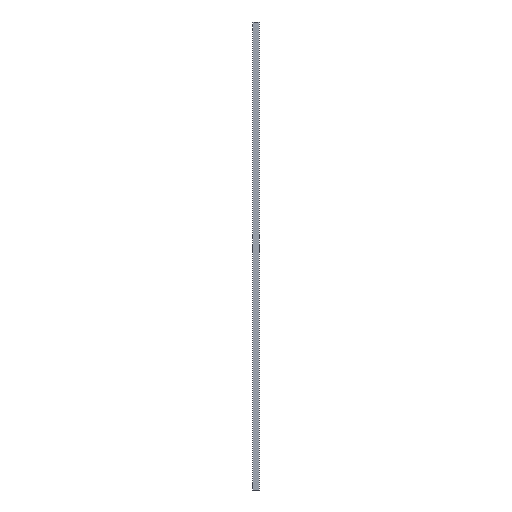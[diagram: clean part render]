
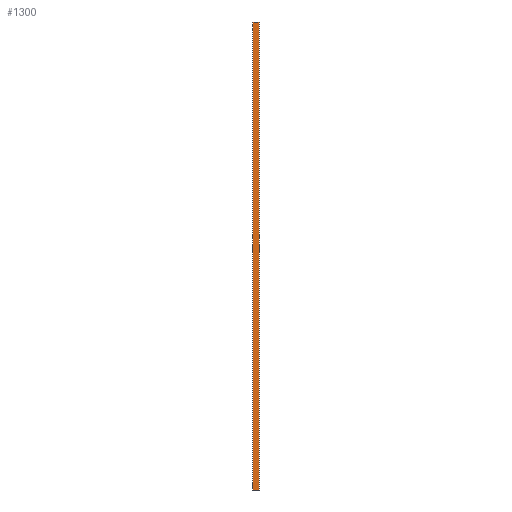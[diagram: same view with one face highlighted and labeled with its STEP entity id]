
A CAD part, left-side view. The second image highlights one B-rep face of the part: STEP entity #1300.
In plain terms, the highlighted planar face has unit normal (-1, 0, 0).
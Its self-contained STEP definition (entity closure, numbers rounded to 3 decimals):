
#45 = ORIENTED_EDGE ( 'NONE', *, *, #320, .T. ) ;
#46 = CARTESIAN_POINT ( 'NONE',  ( -8., 0., 0. ) ) ;
#53 = DIRECTION ( 'NONE',  ( 0., 1., 0. ) ) ;
#57 = FACE_OUTER_BOUND ( 'NONE', #1376, .T. ) ;
#82 = VECTOR ( 'NONE', #53, 1000. ) ;
#88 = CARTESIAN_POINT ( 'NONE',  ( -8., 9.3, 879. ) ) ;
#104 = CARTESIAN_POINT ( 'NONE',  ( -8., 0., 879. ) ) ;
#138 = EDGE_CURVE ( 'NONE', #380, #523, #413, .T. ) ;
#184 = EDGE_CURVE ( 'NONE', #825, #551, #501, .T. ) ;
#189 = VERTEX_POINT ( 'NONE', #719 ) ;
#195 = AXIS2_PLACEMENT_3D ( 'NONE', #1249, #494, #392 ) ;
#231 = CARTESIAN_POINT ( 'NONE',  ( -8., 0., 879. ) ) ;
#235 = CARTESIAN_POINT ( 'NONE',  ( -8., 12.5, 879. ) ) ;
#278 = VERTEX_POINT ( 'NONE', #231 ) ;
#290 = DIRECTION ( 'NONE',  ( 0., -1., 0. ) ) ;
#305 = ORIENTED_EDGE ( 'NONE', *, *, #184, .T. ) ;
#320 = EDGE_CURVE ( 'NONE', #1298, #979, #1196, .T. ) ;
#344 = EDGE_CURVE ( 'NONE', #523, #979, #910, .T. ) ;
#345 = LINE ( 'NONE', #1225, #729 ) ;
#380 = VERTEX_POINT ( 'NONE', #812 ) ;
#392 = DIRECTION ( 'NONE',  ( 0., 0., 1. ) ) ;
#400 = DIRECTION ( 'NONE',  ( 0., 1., 0. ) ) ;
#413 = LINE ( 'NONE', #518, #921 ) ;
#426 = LINE ( 'NONE', #1302, #1218 ) ;
#434 = ORIENTED_EDGE ( 'NONE', *, *, #1072, .F. ) ;
#459 = VECTOR ( 'NONE', #712, 1000. ) ;
#494 = DIRECTION ( 'NONE',  ( -1., 0., 0. ) ) ;
#501 = LINE ( 'NONE', #104, #1056 ) ;
#518 = CARTESIAN_POINT ( 'NONE',  ( -8., 0., 0. ) ) ;
#523 = VERTEX_POINT ( 'NONE', #1068 ) ;
#551 = VERTEX_POINT ( 'NONE', #88 ) ;
#575 = CARTESIAN_POINT ( 'NONE',  ( -8., 0., 879. ) ) ;
#675 = CARTESIAN_POINT ( 'NONE',  ( -8., 0., 0. ) ) ;
#712 = DIRECTION ( 'NONE',  ( 0., 0., -1. ) ) ;
#719 = CARTESIAN_POINT ( 'NONE',  ( -8., 0., 0. ) ) ;
#729 = VECTOR ( 'NONE', #1096, 1000. ) ;
#761 = EDGE_CURVE ( 'NONE', #551, #1298, #345, .T. ) ;
#811 = ORIENTED_EDGE ( 'NONE', *, *, #835, .T. ) ;
#812 = CARTESIAN_POINT ( 'NONE',  ( -8., 3.2, 0. ) ) ;
#825 = VERTEX_POINT ( 'NONE', #1257 ) ;
#828 = LINE ( 'NONE', #46, #916 ) ;
#835 = EDGE_CURVE ( 'NONE', #380, #189, #828, .T. ) ;
#840 = EDGE_CURVE ( 'NONE', #278, #189, #1014, .T. ) ;
#844 = PLANE ( 'NONE',  #195 ) ;
#881 = DIRECTION ( 'NONE',  ( 0., 0., -1. ) ) ;
#898 = CARTESIAN_POINT ( 'NONE',  ( -8., 12.5, 0. ) ) ;
#910 = LINE ( 'NONE', #675, #82 ) ;
#916 = VECTOR ( 'NONE', #290, 1000. ) ;
#921 = VECTOR ( 'NONE', #1391, 1000. ) ;
#979 = VERTEX_POINT ( 'NONE', #898 ) ;
#1014 = LINE ( 'NONE', #575, #459 ) ;
#1022 = ORIENTED_EDGE ( 'NONE', *, *, #138, .F. ) ;
#1056 = VECTOR ( 'NONE', #400, 1000. ) ;
#1068 = CARTESIAN_POINT ( 'NONE',  ( -8., 9.3, 0. ) ) ;
#1072 = EDGE_CURVE ( 'NONE', #825, #278, #426, .T. ) ;
#1078 = DIRECTION ( 'NONE',  ( 0., -1., 0. ) ) ;
#1096 = DIRECTION ( 'NONE',  ( 0., 1., 0. ) ) ;
#1123 = ORIENTED_EDGE ( 'NONE', *, *, #344, .F. ) ;
#1132 = ORIENTED_EDGE ( 'NONE', *, *, #840, .F. ) ;
#1158 = CARTESIAN_POINT ( 'NONE',  ( -8., 12.5, 879. ) ) ;
#1196 = LINE ( 'NONE', #235, #1201 ) ;
#1201 = VECTOR ( 'NONE', #881, 1000. ) ;
#1218 = VECTOR ( 'NONE', #1078, 1000. ) ;
#1225 = CARTESIAN_POINT ( 'NONE',  ( -8., 12.5, 879. ) ) ;
#1249 = CARTESIAN_POINT ( 'NONE',  ( -8., 0., 879. ) ) ;
#1257 = CARTESIAN_POINT ( 'NONE',  ( -8., 3.2, 879. ) ) ;
#1268 = ORIENTED_EDGE ( 'NONE', *, *, #761, .T. ) ;
#1298 = VERTEX_POINT ( 'NONE', #1158 ) ;
#1300 = ADVANCED_FACE ( 'NONE', ( #57 ), #844, .T. ) ;
#1302 = CARTESIAN_POINT ( 'NONE',  ( -8., 0., 879. ) ) ;
#1376 = EDGE_LOOP ( 'NONE', ( #1022, #811, #1132, #434, #305, #1268, #45, #1123 ) ) ;
#1391 = DIRECTION ( 'NONE',  ( 0., 1., 0. ) ) ;
